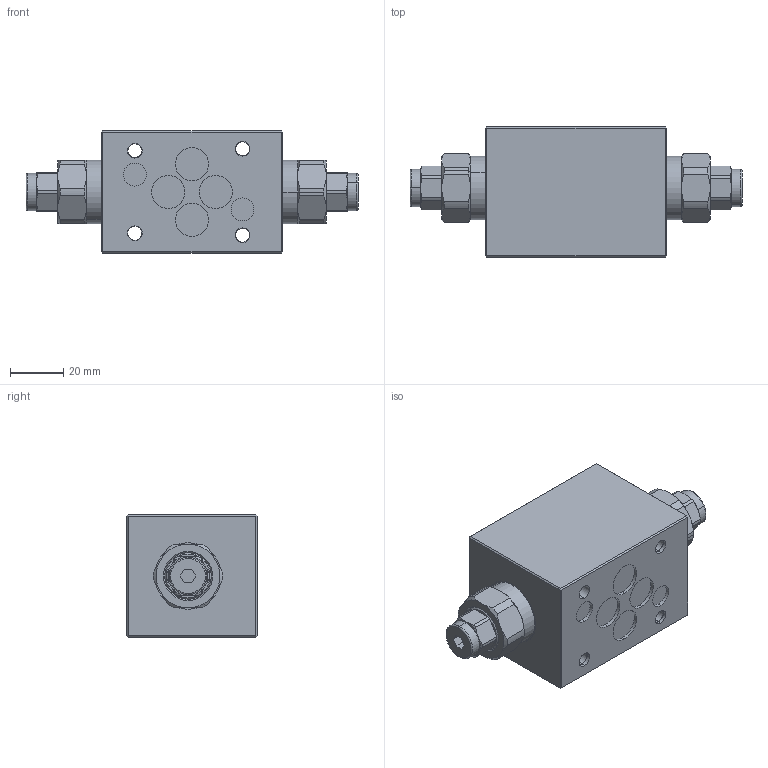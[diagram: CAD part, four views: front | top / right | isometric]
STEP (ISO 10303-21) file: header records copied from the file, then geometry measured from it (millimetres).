
FILE_DESCRIPTION (( 'STEP AP214' ), '1' );
FILE_NAME ('WFFFA06-...-ae-K9.STEP', '2024-11-15T09:31:04', ( '' ), ( '' ), 'SwSTEP 2.0', 'SolidWorks 2022', '' );
FILE_SCHEMA (( 'AUTOMOTIVE_DESIGN' ));
Length unit declared in the file: millimetre
Products named in the file (1): WFFFA06-...-ae-K9
Bounding box: 124.8 x 49 x 46 mm (x, y, z)
Volume: 165648.4 mm3; surface area: 27872.4 mm2
Topology: 1 solids, 7 shells, 369 faces, 869 edges, 556 vertices
Faces by surface type: plane 164, cylinder 106, cone 68, bspline 23, torus 8
Entity records: 15716 total; most frequent: CARTESIAN_POINT 3090, DIRECTION 1795, ORIENTED_EDGE 1738, EDGE_CURVE 869, AXIS2_PLACEMENT_3D 689, VERTEX_POINT 556, EDGE_LOOP 431, LINE 417
